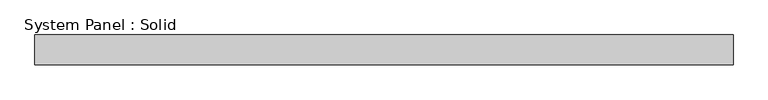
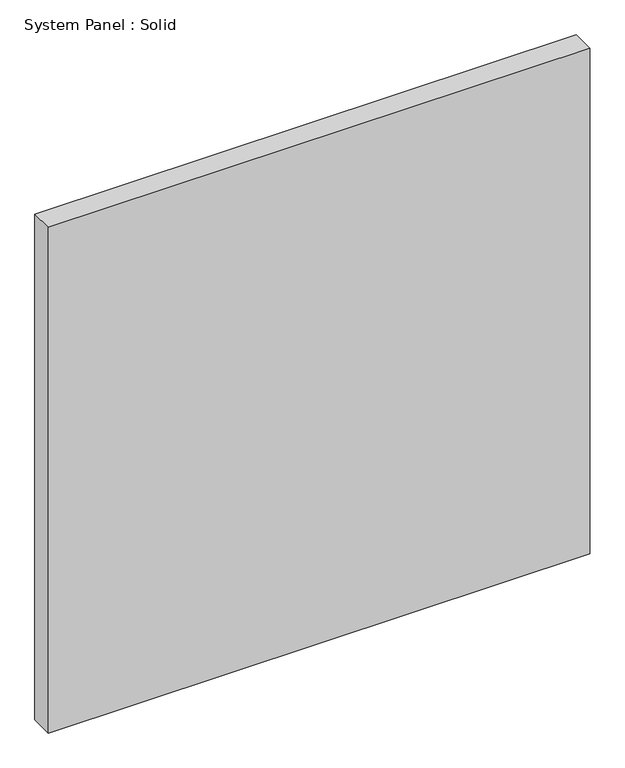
"""IFC4 building model written with IfcOpenShell, lengths in millimetres: plate geometry, System Panel : Solid."""

from ifc_helpers import new_model, si_unit, origin, origin_with_axes, place, context, project, spatial, polyline, outline, extrude, source, transform, mapped, element, save


def system_panel_solid_2f1037e2(model_context):
    return source(origin(), model_context, "Body", "SweptSolid", [
        extrude(outline(polyline([(742.95, -19.05), (-742.95, -19.05), (-742.95, 44.45), (742.95, 44.45), (742.95, -19.05)])), origin_with_axes(), (0.0, 0.0, 1.0), 1466.85),
    ])


if __name__ == "__main__":
    model = new_model("IFC4")
    model_context = context("Model", 3, world=origin())
    ifc_project = project(units=[si_unit("LENGTHUNIT", "METRE", prefix="MILLI")], contexts=[model_context])
    site = spatial("IfcSite", under=ifc_project)
    building = spatial("IfcBuilding", under=site)
    placement = place(None, origin())
    system_panel_solid_shape = system_panel_solid_2f1037e2(model_context)
    element("IfcPlate", 1, ObjectType="System Panel : Solid", at=placement, inside=building, context=model_context, shape_type="MappedRepresentation", body=[
        mapped(system_panel_solid_shape, transform((0.0, 0.0, 0.0), x_axis=(1.0, 0.0, 0.0), y_axis=(0.0, 1.0, 0.0), z_axis=(0.0, 0.0, 1.0))),
    ])
    save(model, "model.ifc")
